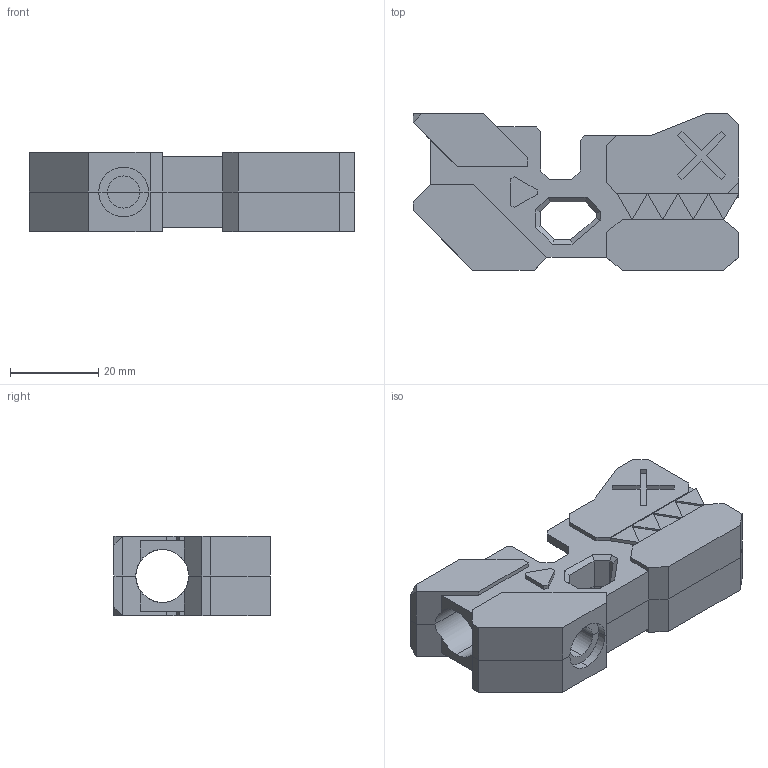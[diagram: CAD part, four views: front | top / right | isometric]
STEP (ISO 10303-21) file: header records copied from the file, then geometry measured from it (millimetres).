
FILE_DESCRIPTION (( 'STEP AP214' ), '1' );
FILE_NAME ('Bolt Action Fidget Body.STEP', '2023-07-31T21:53:19', ( '' ), ( '' ), 'SwSTEP 2.0', 'SolidWorks 2021', '' );
FILE_SCHEMA (( 'AUTOMOTIVE_DESIGN' ));
Length unit declared in the file: millimetre
Products named in the file (1): Bolt Action Fidget Body
Bounding box: 74 x 35.5 x 18 mm (x, y, z)
Volume: 27466.1 mm3; surface area: 14189.4 mm2
Topology: 10 solids, 10 shells, 264 faces, 675 edges, 433 vertices
Faces by surface type: plane 244, cylinder 16, bspline 2, cone 2
Entity records: 8007 total; most frequent: CARTESIAN_POINT 1565, ORIENTED_EDGE 1346, DIRECTION 1202, EDGE_CURVE 673, LINE 618, VECTOR 618, VERTEX_POINT 433, AXIS2_PLACEMENT_3D 292
